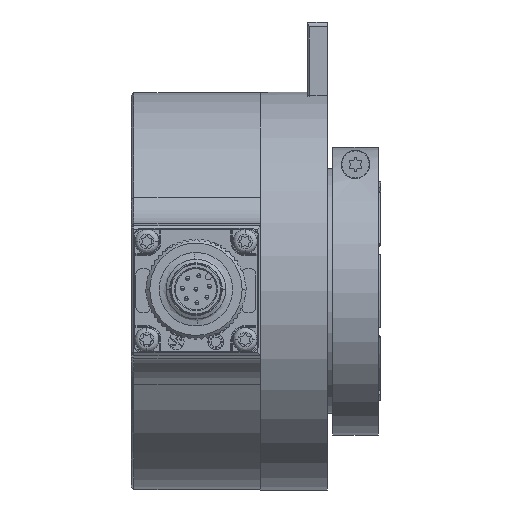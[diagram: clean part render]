
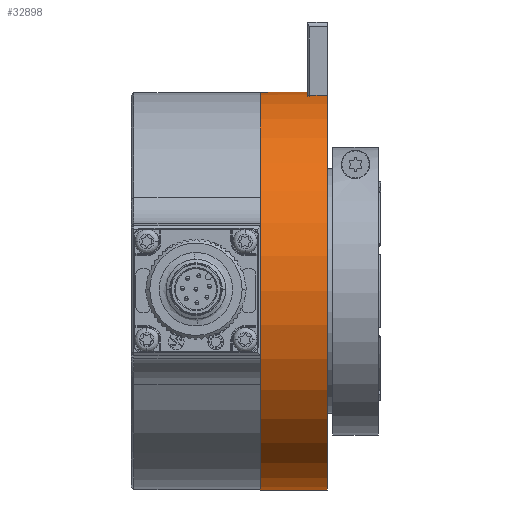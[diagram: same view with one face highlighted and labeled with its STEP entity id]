
A CAD part, top view. The second image highlights one B-rep face of the part: STEP entity #32898.
In plain terms, the highlighted cylindrical face has radius 40.075 mm (diameter 80.15 mm), a partial arc.
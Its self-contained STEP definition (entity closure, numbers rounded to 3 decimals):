
#32 = EDGE_LOOP ( 'NONE', ( #13613, #31588, #11361, #45506, #27943, #24726 ) ) ;
#805 = VERTEX_POINT ( 'NONE', #21314 ) ;
#1561 = AXIS2_PLACEMENT_3D ( 'NONE', #23395, #12395, #24398 ) ;
#3213 = CARTESIAN_POINT ( 'NONE',  ( -12.775, 40.075, 0. ) ) ;
#3224 = LINE ( 'NONE', #10246, #6586 ) ;
#3558 = CARTESIAN_POINT ( 'NONE',  ( -12.775, -40.075, 0. ) ) ;
#4442 = VERTEX_POINT ( 'NONE', #4915 ) ;
#4729 = CARTESIAN_POINT ( 'NONE',  ( 0., -40.075, 0. ) ) ;
#4915 = CARTESIAN_POINT ( 'NONE',  ( 0., 40.075, 0. ) ) ;
#6586 = VECTOR ( 'NONE', #25275, 1000. ) ;
#7241 = CYLINDRICAL_SURFACE ( 'NONE', #45596, 40.075 ) ;
#9218 = DIRECTION ( 'NONE',  ( -1., 0., 0. ) ) ;
#10246 = CARTESIAN_POINT ( 'NONE',  ( -12.775, 39.468, 6.95 ) ) ;
#11126 = EDGE_CURVE ( 'NONE', #14460, #4442, #26258, .T. ) ;
#11361 = ORIENTED_EDGE ( 'NONE', *, *, #43322, .T. ) ;
#12395 = DIRECTION ( 'NONE',  ( -1., 0., 0. ) ) ;
#12741 = CIRCLE ( 'NONE', #1561, 40.075 ) ;
#13613 = ORIENTED_EDGE ( 'NONE', *, *, #18306, .F. ) ;
#14071 = EDGE_CURVE ( 'NONE', #805, #34121, #12741, .T. ) ;
#14460 = VERTEX_POINT ( 'NONE', #34615 ) ;
#15826 = VECTOR ( 'NONE', #26491, 1000. ) ;
#18244 = FACE_OUTER_BOUND ( 'NONE', #32, .T. ) ;
#18306 = EDGE_CURVE ( 'NONE', #805, #23666, #34826, .T. ) ;
#21314 = CARTESIAN_POINT ( 'NONE',  ( 13.5, -40.075, 0. ) ) ;
#21949 = CARTESIAN_POINT ( 'NONE',  ( 13.5, 39.468, 6.95 ) ) ;
#23395 = CARTESIAN_POINT ( 'NONE',  ( 13.5, 0., 0. ) ) ;
#23666 = VERTEX_POINT ( 'NONE', #4729 ) ;
#24398 = DIRECTION ( 'NONE',  ( 0., 1., 0. ) ) ;
#24726 = ORIENTED_EDGE ( 'NONE', *, *, #47127, .F. ) ;
#25275 = DIRECTION ( 'NONE',  ( -1., 0., 0. ) ) ;
#26053 = AXIS2_PLACEMENT_3D ( 'NONE', #28254, #9218, #39494 ) ;
#26258 = LINE ( 'NONE', #3213, #15826 ) ;
#26389 = CARTESIAN_POINT ( 'NONE',  ( 9.5, 39.468, 6.95 ) ) ;
#26491 = DIRECTION ( 'NONE',  ( -1., 0., 0. ) ) ;
#27943 = ORIENTED_EDGE ( 'NONE', *, *, #11126, .T. ) ;
#28254 = CARTESIAN_POINT ( 'NONE',  ( 0., 0., 0. ) ) ;
#30044 = CARTESIAN_POINT ( 'NONE',  ( -12.775, 0., 0. ) ) ;
#30049 = AXIS2_PLACEMENT_3D ( 'NONE', #42181, #30934, #30695 ) ;
#30695 = DIRECTION ( 'NONE',  ( 0., 1., 0. ) ) ;
#30934 = DIRECTION ( 'NONE',  ( -1., 0., 0. ) ) ;
#31588 = ORIENTED_EDGE ( 'NONE', *, *, #14071, .T. ) ;
#32281 = VERTEX_POINT ( 'NONE', #26389 ) ;
#32431 = CIRCLE ( 'NONE', #30049, 40.075 ) ;
#32455 = CIRCLE ( 'NONE', #26053, 40.075 ) ;
#32898 = ADVANCED_FACE ( 'NONE', ( #18244 ), #7241, .T. ) ;
#34121 = VERTEX_POINT ( 'NONE', #21949 ) ;
#34615 = CARTESIAN_POINT ( 'NONE',  ( 9.5, 40.075, 0. ) ) ;
#34826 = LINE ( 'NONE', #3558, #43954 ) ;
#38816 = DIRECTION ( 'NONE',  ( -1., 0., 0. ) ) ;
#39045 = EDGE_CURVE ( 'NONE', #32281, #14460, #32431, .T. ) ;
#39494 = DIRECTION ( 'NONE',  ( 0., 1., 0. ) ) ;
#41519 = DIRECTION ( 'NONE',  ( 0., 1., 0. ) ) ;
#42181 = CARTESIAN_POINT ( 'NONE',  ( 9.5, 0., 0. ) ) ;
#43322 = EDGE_CURVE ( 'NONE', #34121, #32281, #3224, .T. ) ;
#43954 = VECTOR ( 'NONE', #38816, 1000. ) ;
#45276 = DIRECTION ( 'NONE',  ( -1., 0., 0. ) ) ;
#45506 = ORIENTED_EDGE ( 'NONE', *, *, #39045, .T. ) ;
#45596 = AXIS2_PLACEMENT_3D ( 'NONE', #30044, #45276, #41519 ) ;
#47127 = EDGE_CURVE ( 'NONE', #23666, #4442, #32455, .T. ) ;
